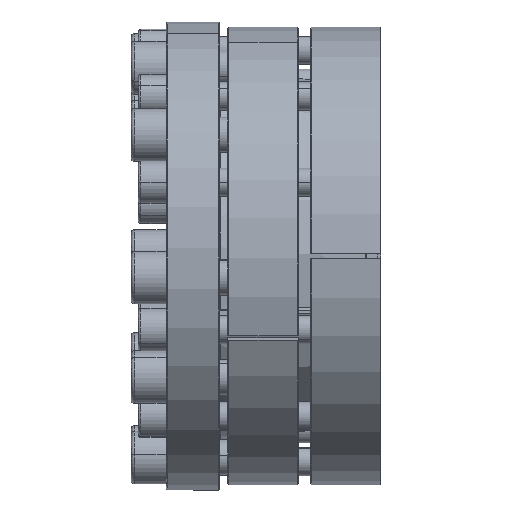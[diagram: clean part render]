
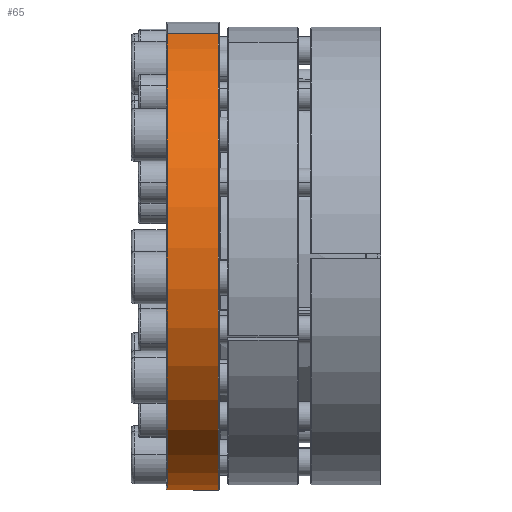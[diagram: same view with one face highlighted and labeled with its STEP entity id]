
A CAD part, left-side view. The second image highlights one B-rep face of the part: STEP entity #65.
In plain terms, the highlighted cylindrical face has radius 133 mm (diameter 266 mm), a partial arc.
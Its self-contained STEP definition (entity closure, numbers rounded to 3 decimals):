
#65 = ADVANCED_FACE ( 'NONE', ( #1500 ), #4953, .T. ) ;
#102 = VECTOR ( 'NONE', #24624, 1000. ) ;
#493 = CARTESIAN_POINT ( 'NONE',  ( -41.099, 99.467, 126.491 ) ) ;
#1500 = FACE_OUTER_BOUND ( 'NONE', #11983, .T. ) ;
#3450 = CARTESIAN_POINT ( 'NONE',  ( -41.099, 121.499, 126.491 ) ) ;
#4237 = AXIS2_PLACEMENT_3D ( 'NONE', #27346, #12633, #29835 ) ;
#4267 = ORIENTED_EDGE ( 'NONE', *, *, #17782, .T. ) ;
#4953 = CYLINDRICAL_SURFACE ( 'NONE', #8937, 133. ) ;
#6022 = EDGE_CURVE ( 'NONE', #7873, #10024, #22119, .T. ) ;
#7873 = VERTEX_POINT ( 'NONE', #23940 ) ;
#8097 = EDGE_CURVE ( 'NONE', #10024, #26593, #13513, .T. ) ;
#8853 = ORIENTED_EDGE ( 'NONE', *, *, #8097, .T. ) ;
#8937 = AXIS2_PLACEMENT_3D ( 'NONE', #18686, #18581, #31013 ) ;
#9232 = AXIS2_PLACEMENT_3D ( 'NONE', #26817, #12150, #29316 ) ;
#10024 = VERTEX_POINT ( 'NONE', #3450 ) ;
#11669 = CARTESIAN_POINT ( 'NONE',  ( 41.099, 92.499, -126.491 ) ) ;
#11983 = EDGE_LOOP ( 'NONE', ( #17871, #4267, #23502, #8853 ) ) ;
#12150 = DIRECTION ( 'NONE',  ( 0., 1., 0. ) ) ;
#12633 = DIRECTION ( 'NONE',  ( 0., -1., 0. ) ) ;
#13513 = CIRCLE ( 'NONE', #4237, 133. ) ;
#17625 = DIRECTION ( 'NONE',  ( 0., 1., 0. ) ) ;
#17782 = EDGE_CURVE ( 'NONE', #23627, #7873, #27445, .T. ) ;
#17871 = ORIENTED_EDGE ( 'NONE', *, *, #27209, .F. ) ;
#18581 = DIRECTION ( 'NONE',  ( 0., 1., 0. ) ) ;
#18686 = CARTESIAN_POINT ( 'NONE',  ( 0., 99.467, 0. ) ) ;
#19761 = LINE ( 'NONE', #22177, #102 ) ;
#21787 = VECTOR ( 'NONE', #17625, 1000. ) ;
#22119 = LINE ( 'NONE', #493, #21787 ) ;
#22177 = CARTESIAN_POINT ( 'NONE',  ( 41.099, 99.467, -126.491 ) ) ;
#23502 = ORIENTED_EDGE ( 'NONE', *, *, #6022, .T. ) ;
#23627 = VERTEX_POINT ( 'NONE', #11669 ) ;
#23940 = CARTESIAN_POINT ( 'NONE',  ( -41.099, 92.499, 126.491 ) ) ;
#24624 = DIRECTION ( 'NONE',  ( 0., 1., 0. ) ) ;
#26593 = VERTEX_POINT ( 'NONE', #31875 ) ;
#26817 = CARTESIAN_POINT ( 'NONE',  ( 0., 92.499, 0. ) ) ;
#27209 = EDGE_CURVE ( 'NONE', #23627, #26593, #19761, .T. ) ;
#27346 = CARTESIAN_POINT ( 'NONE',  ( 0., 121.499, 0. ) ) ;
#27445 = CIRCLE ( 'NONE', #9232, 133. ) ;
#29316 = DIRECTION ( 'NONE',  ( 0.309, 0., -0.951 ) ) ;
#29835 = DIRECTION ( 'NONE',  ( -0.309, 0., 0.951 ) ) ;
#31013 = DIRECTION ( 'NONE',  ( -0.309, 0., 0.951 ) ) ;
#31875 = CARTESIAN_POINT ( 'NONE',  ( 41.099, 121.499, -126.491 ) ) ;
